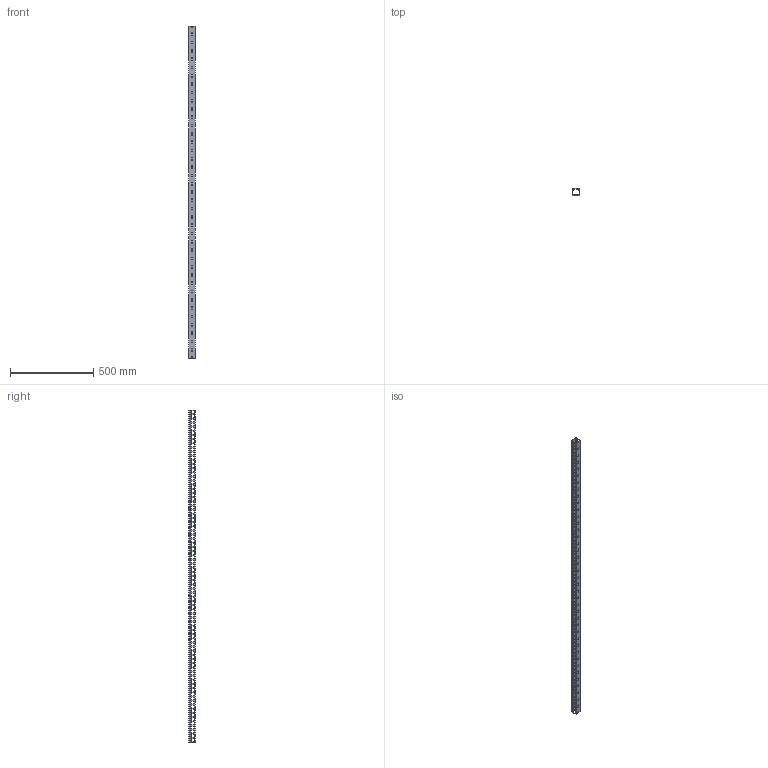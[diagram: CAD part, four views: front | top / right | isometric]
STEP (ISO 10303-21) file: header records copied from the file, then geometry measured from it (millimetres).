
FILE_DESCRIPTION (( 'STEP AP214' ), '1' );
FILE_NAME ('KD-44-20-LL.STEP', '2020-02-19T00:20:45', ( '' ), ( '' ), 'SwSTEP 2.0', 'SolidWorks 2018', '' );
FILE_SCHEMA (( 'AUTOMOTIVE_DESIGN' ));
Length unit declared in the file: millimetre
Products named in the file (3): KD-44-20-LL-body; KD-44-20-LL; KD-44-20-cover
Assembly tree (2 placements, depth 2):
  KD-44-20-LL
    KD-44-20-LL-body
    KD-44-20-cover
Bounding box: 40 x 40.17 x 2000 mm (x, y, z)
Volume: 533170.2 mm3; surface area: 679561 mm2
Topology: 2 solids, 2 shells, 1547 faces, 4629 edges, 3086 vertices
Faces by surface type: cylinder 797, plane 750
Entity records: 53463 total; most frequent: DIRECTION 9327, CARTESIAN_POINT 9267, ORIENTED_EDGE 9258, EDGE_CURVE 4629, AXIS2_PLACEMENT_3D 3146, VERTEX_POINT 3086, VECTOR 3035, LINE 3035
